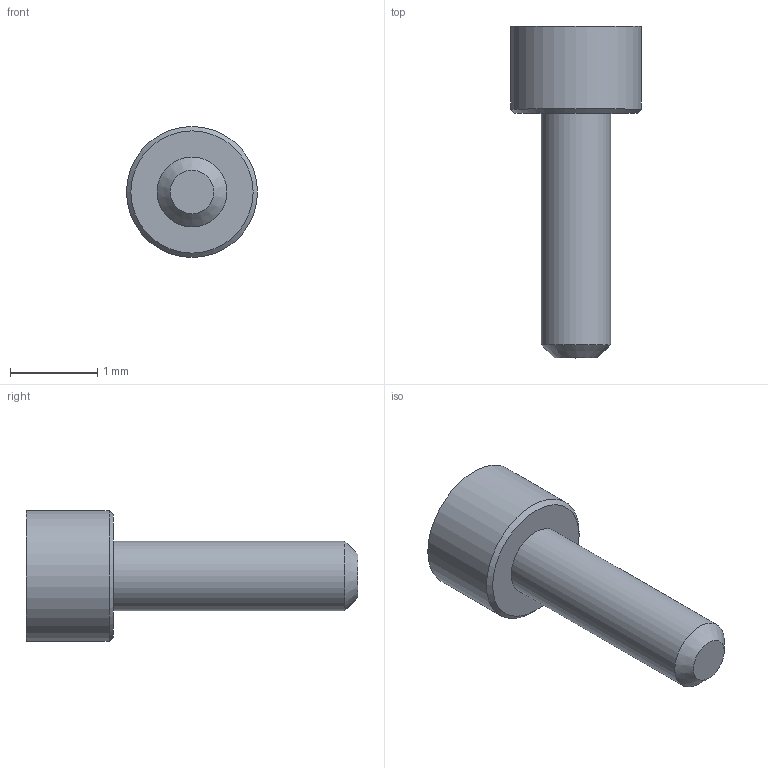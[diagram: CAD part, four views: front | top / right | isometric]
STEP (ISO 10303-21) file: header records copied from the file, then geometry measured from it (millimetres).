
FILE_DESCRIPTION (( 'STEP AP214' ), '1' );
FILE_NAME ('SK-3.STEP', '2018-10-09T18:04:48', ( '' ), ( '' ), 'SwSTEP 2.0', 'SolidWorks 2017', '' );
FILE_SCHEMA (( 'AUTOMOTIVE_DESIGN' ));
Length unit declared in the file: millimetre
Products named in the file (1): SK-3
Bounding box: 1.5 x 3.8 x 1.5 mm (x, y, z)
Volume: 3.1 mm3; surface area: 15.3 mm2
Topology: 1 solids, 1 shells, 20 faces, 48 edges, 32 vertices
Faces by surface type: plane 11, cylinder 7, cone 2
Full cylindrical faces by diameter (mm): 0.8 x1, 1.5 x1
Entity records: 574 total; most frequent: CARTESIAN_POINT 123, ORIENTED_EDGE 84, DIRECTION 80, EDGE_CURVE 42, VERTEX_POINT 30, AXIS2_PLACEMENT_3D 27, EDGE_LOOP 26, VECTOR 26
